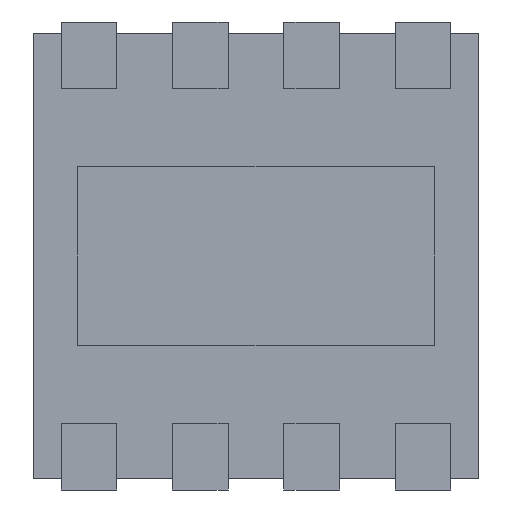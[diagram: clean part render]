
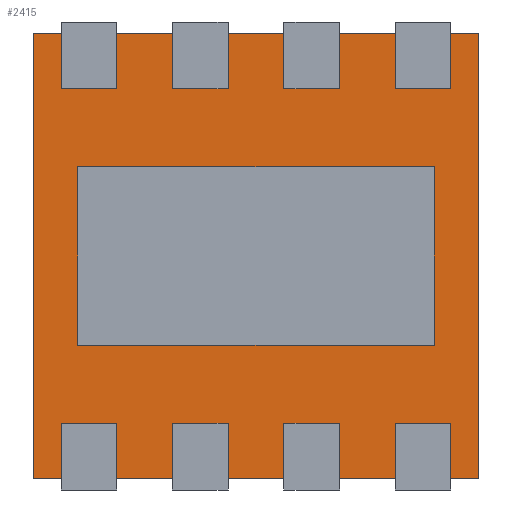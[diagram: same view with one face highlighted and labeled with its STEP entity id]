
A CAD part, front view. The second image highlights one B-rep face of the part: STEP entity #2415.
In plain terms, the highlighted planar face has unit normal (0, -1, 0).
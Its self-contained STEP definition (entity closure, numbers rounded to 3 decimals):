
#2258 = CARTESIAN_POINT ( 'NONE',  ( -1., 0.05, -1. ) ) ;
#2259 = VERTEX_POINT ( 'NONE', #2258 ) ;
#2260 = CARTESIAN_POINT ( 'NONE',  ( -1., 0.05, 1. ) ) ;
#2261 = VERTEX_POINT ( 'NONE', #2260 ) ;
#2262 = CARTESIAN_POINT ( 'NONE',  ( -1., 0.05, 1. ) ) ;
#2263 = DIRECTION ( 'NONE',  ( 0., 0., 1. ) ) ;
#2264 = VECTOR ( 'NONE', #2263, 1000. ) ;
#2265 = LINE ( 'NONE', #2262, #2264 ) ;
#2266 = EDGE_CURVE ( 'NONE', #2259, #2261, #2265, .T. ) ;
#2298 = CARTESIAN_POINT ( 'NONE',  ( 1., 0.05, 1. ) ) ;
#2299 = VERTEX_POINT ( 'NONE', #2298 ) ;
#2300 = CARTESIAN_POINT ( 'NONE',  ( 1., 0.05, 1. ) ) ;
#2301 = DIRECTION ( 'NONE',  ( 1., 0., 0. ) ) ;
#2302 = VECTOR ( 'NONE', #2301, 1000. ) ;
#2303 = LINE ( 'NONE', #2300, #2302 ) ;
#2304 = EDGE_CURVE ( 'NONE', #2261, #2299, #2303, .T. ) ;
#2329 = CARTESIAN_POINT ( 'NONE',  ( 1., 0.05, -1. ) ) ;
#2330 = VERTEX_POINT ( 'NONE', #2329 ) ;
#2331 = CARTESIAN_POINT ( 'NONE',  ( 1., 0.05, 1. ) ) ;
#2332 = DIRECTION ( 'NONE',  ( 0., 0., -1. ) ) ;
#2333 = VECTOR ( 'NONE', #2332, 1000. ) ;
#2334 = LINE ( 'NONE', #2331, #2333 ) ;
#2335 = EDGE_CURVE ( 'NONE', #2299, #2330, #2334, .T. ) ;
#2360 = CARTESIAN_POINT ( 'NONE',  ( 1., 0.05, -1. ) ) ;
#2361 = DIRECTION ( 'NONE',  ( -1., 0., 0. ) ) ;
#2362 = VECTOR ( 'NONE', #2361, 1000. ) ;
#2363 = LINE ( 'NONE', #2360, #2362 ) ;
#2364 = EDGE_CURVE ( 'NONE', #2330, #2259, #2363, .T. ) ;
#2404 = ORIENTED_EDGE ( 'NONE', *, *, #2266, .F. ) ;
#2405 = ORIENTED_EDGE ( 'NONE', *, *, #2364, .F. ) ;
#2406 = ORIENTED_EDGE ( 'NONE', *, *, #2335, .F. ) ;
#2407 = ORIENTED_EDGE ( 'NONE', *, *, #2304, .F. ) ;
#2408 = EDGE_LOOP ( 'NONE', ( #2404, #2405, #2406, #2407 ) ) ;
#2409 = FACE_OUTER_BOUND ( 'NONE', #2408, .T. ) ;
#2410 = CARTESIAN_POINT ( 'NONE',  ( 0., 0.05, 0. ) ) ;
#2411 = DIRECTION ( 'NONE',  ( 0., 1., 0. ) ) ;
#2412 = DIRECTION ( 'NONE',  ( 0., 0., 1. ) ) ;
#2413 = AXIS2_PLACEMENT_3D ( 'NONE', #2410, #2411, #2412 ) ;
#2414 = PLANE ( 'NONE', #2413 ) ;
#2415 = ADVANCED_FACE ( 'NONE', ( #2409 ), #2414, .F. ) ;
